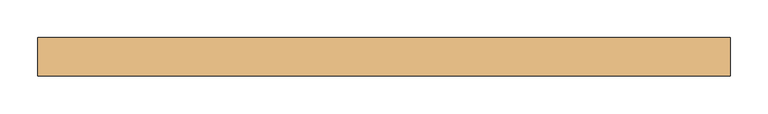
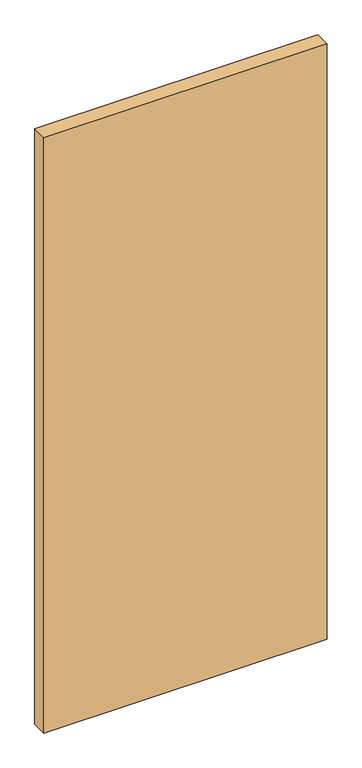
"""IFC4 building model written with IfcOpenShell, lengths in millimetres: door geometry, Planitar - Swap_Flush Panel : Planitar - Swap_Flush Panel."""

from ifc_helpers import new_model, si_unit, origin, origin_with_axes, place, context, project, spatial, polyline, outline, extrude, source, transform, mapped, element, save


def door_8cb6f799(model_context):
    return source(origin(), model_context, "Body", "SweptSolid", [
        extrude(outline(polyline([(457.2, -25.4), (-457.2, -25.4), (-457.2, 25.4), (457.2, 25.4), (457.2, -25.4)])), origin_with_axes(), (0.0, 0.0, 1.0), 2032.0),
    ])


if __name__ == "__main__":
    model = new_model("IFC4")
    model_context = context("Model", 3, world=origin())
    ifc_project = project(units=[si_unit("LENGTHUNIT", "METRE", prefix="MILLI")], contexts=[model_context])
    site = spatial("IfcSite", under=ifc_project)
    building = spatial("IfcBuilding", under=site)
    placement = place(None, origin())
    door_shape = door_8cb6f799(model_context)
    element("IfcDoor", 1, ObjectType="Planitar - Swap_Flush Panel : Planitar - Swap_Flush Panel", at=placement, inside=building, context=model_context, shape_type="MappedRepresentation", body=[
        mapped(door_shape, transform((0.0, 0.0, 0.0), x_axis=(1.0, 0.0, 0.0), y_axis=(0.0, 1.0, 0.0), z_axis=(0.0, 0.0, 1.0))),
    ])
    save(model, "model.ifc")
